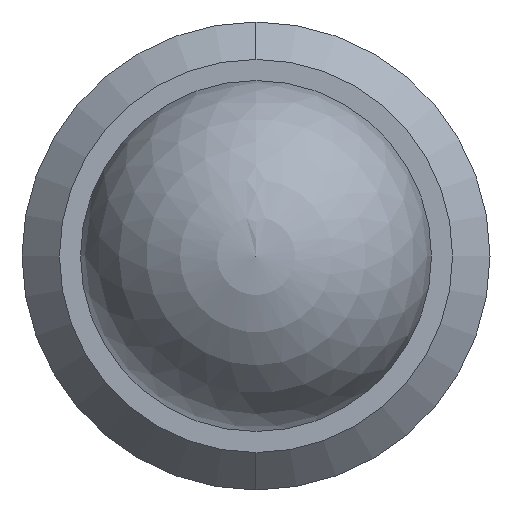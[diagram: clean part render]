
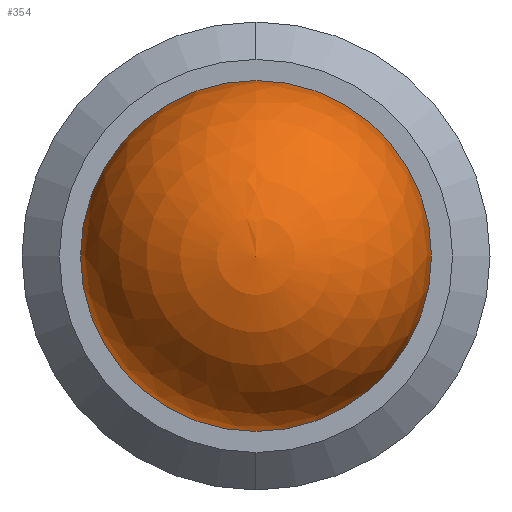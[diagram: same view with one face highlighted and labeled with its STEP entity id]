
A CAD part, left-side view. The second image highlights one B-rep face of the part: STEP entity #354.
In plain terms, the highlighted spherical face has radius 2.381 mm.
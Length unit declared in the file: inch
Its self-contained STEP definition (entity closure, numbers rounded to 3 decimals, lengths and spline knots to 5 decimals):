
#8 = SPHERICAL_SURFACE ( 'NONE', #242, 0.09375 ) ;
#22 = EDGE_CURVE ( 'NONE', #131, #508, #79, .T. ) ;
#29 = EDGE_LOOP ( 'NONE', ( #339, #498 ) ) ;
#34 = DIRECTION ( 'NONE',  ( 0., 0., 1. ) ) ;
#45 = CIRCLE ( 'NONE', #106, 0.09375 ) ;
#69 = DIRECTION ( 'NONE',  ( 1., 0., 0. ) ) ;
#79 = CIRCLE ( 'NONE', #142, 0.09375 ) ;
#81 = CARTESIAN_POINT ( 'NONE',  ( 0., 0., 0. ) ) ;
#106 = AXIS2_PLACEMENT_3D ( 'NONE', #81, #417, #120 ) ;
#118 = FACE_OUTER_BOUND ( 'NONE', #29, .T. ) ;
#120 = DIRECTION ( 'NONE',  ( 0., 0., 1. ) ) ;
#131 = VERTEX_POINT ( 'NONE', #382 ) ;
#142 = AXIS2_PLACEMENT_3D ( 'NONE', #156, #69, #316 ) ;
#156 = CARTESIAN_POINT ( 'NONE',  ( 0., 0., 0. ) ) ;
#227 = DIRECTION ( 'NONE',  ( -1., 0., 0. ) ) ;
#242 = AXIS2_PLACEMENT_3D ( 'NONE', #329, #227, #34 ) ;
#307 = EDGE_CURVE ( 'NONE', #131, #508, #45, .T. ) ;
#316 = DIRECTION ( 'NONE',  ( 0., 0., -1. ) ) ;
#329 = CARTESIAN_POINT ( 'NONE',  ( 0., 0., 0. ) ) ;
#339 = ORIENTED_EDGE ( 'NONE', *, *, #22, .F. ) ;
#354 = ADVANCED_FACE ( 'NONE', ( #118 ), #8, .T. ) ;
#382 = CARTESIAN_POINT ( 'NONE',  ( 0., 0.09375, 0. ) ) ;
#410 = CARTESIAN_POINT ( 'NONE',  ( 0., -0.09375, 0. ) ) ;
#417 = DIRECTION ( 'NONE',  ( -1., 0., 0. ) ) ;
#498 = ORIENTED_EDGE ( 'NONE', *, *, #307, .T. ) ;
#508 = VERTEX_POINT ( 'NONE', #410 ) ;
